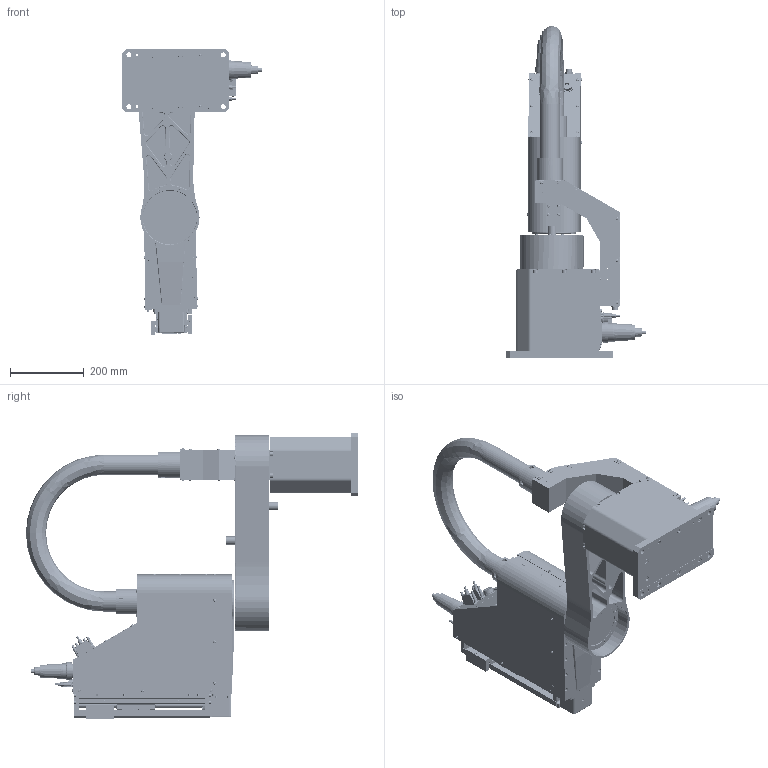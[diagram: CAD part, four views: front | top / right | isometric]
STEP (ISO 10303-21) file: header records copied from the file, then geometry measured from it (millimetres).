
FILE_DESCRIPTION (( 'STEP AP214' ), '1' );
FILE_NAME ('ÍØÐÇ³½ TR0015-HP650.STEP', '2020-12-02T07:13:36', ( '' ), ( '' ), 'SwSTEP 2.0', 'SolidWorks 2016', '' );
FILE_SCHEMA (( 'AUTOMOTIVE_DESIGN' ));
Length unit declared in the file: millimetre
Products named in the file (8): W-嘐隅釱KK-86-FS_1; AD54.5波纹管（长度900mm，(线缆供应商提供)）; 波纹管接头 普能--WST-SM-G-M50--AD54.5(线缆供应商提供); 盄俶耀郪蚾饜; E-3C-190007-200-00-0 J1粣; 阹陎魚 TR0015-HP650; E-3C-190007-100-00-0 菁釱郪璃; E-3C-190007-300-00-0 J2粣
Assembly tree (8 placements, depth 2):
  阹陎魚 TR0015-HP650
    E-3C-190007-100-00-0 菁釱郪璃
    E-3C-190007-200-00-0 J1粣
    E-3C-190007-300-00-0 J2粣
    盄俶耀郪蚾饜
    波纹管接头 普能--WST-SM-G-M50--AD54.5(线缆供应商提供)  x2
    AD54.5波纹管（长度900mm，(线缆供应商提供)）
    W-嘐隅釱KK-86-FS_1
Bounding box: 378.1 x 897.75 x 771.55 mm (x, y, z)
Volume: 11322235.7 mm3; surface area: 3430933.3 mm2
Topology: 254 solids, 254 shells, 11736 faces, 30227 edges, 19713 vertices
Faces by surface type: plane 5662, cylinder 3609, bspline 1594, cone 871
Entity records: 558397 total; most frequent: CARTESIAN_POINT 148039, ORIENTED_EDGE 59570, DIRECTION 54294, EDGE_CURVE 29785, VERTEX_POINT 19623, AXIS2_PLACEMENT_3D 18253, VECTOR 17788, LINE 17788
